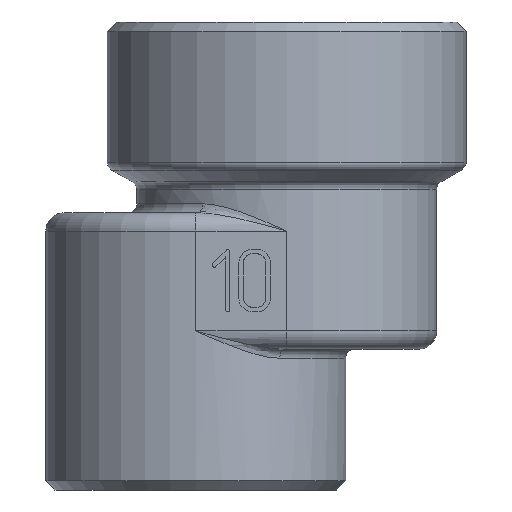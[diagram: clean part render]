
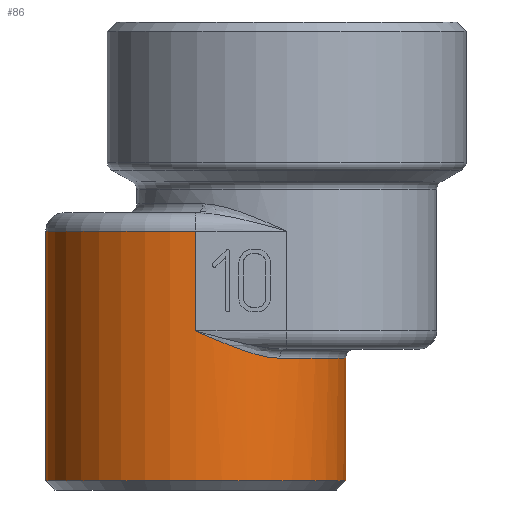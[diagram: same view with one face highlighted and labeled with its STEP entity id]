
A CAD part, left-side view. The second image highlights one B-rep face of the part: STEP entity #86.
In plain terms, the highlighted cylindrical face has radius 16.5 mm (diameter 33 mm), a full revolution.
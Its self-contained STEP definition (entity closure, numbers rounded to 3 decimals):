
#86=ADVANCED_FACE('',(#419,#421),#423,.T.);
#419=FACE_BOUND('',#420,.T.);
#420=EDGE_LOOP('',(#1721,#1722,#1723,#1724,#1725,#1726));
#421=FACE_OUTER_BOUND('',#422,.T.);
#422=EDGE_LOOP('',(#1727));
#423=CYLINDRICAL_SURFACE('',#424,16.5);
#424=AXIS2_PLACEMENT_3D('',#425,#426,#427);
#425=CARTESIAN_POINT('',(0.,0.,0.));
#426=DIRECTION('',(0.,0.,1.));
#427=DIRECTION('',(-1.,0.,0.));
#1721=ORIENTED_EDGE('',*,*,#2126,.F.);
#1722=ORIENTED_EDGE('',*,*,#2127,.F.);
#1723=ORIENTED_EDGE('',*,*,#2128,.F.);
#1724=ORIENTED_EDGE('',*,*,#2129,.F.);
#1725=ORIENTED_EDGE('',*,*,#2015,.T.);
#1726=ORIENTED_EDGE('',*,*,#2130,.F.);
#1727=ORIENTED_EDGE('',*,*,#2131,.T.);
#2015=EDGE_CURVE('',#2271,#2268,#2272,.T.);
#2126=EDGE_CURVE('',#2452,#2453,#2454,.T.);
#2127=EDGE_CURVE('',#2455,#2452,#2456,.T.);
#2128=EDGE_CURVE('',#2457,#2455,#2458,.T.);
#2129=EDGE_CURVE('',#2271,#2457,#2459,.F.);
#2130=EDGE_CURVE('',#2453,#2268,#2460,.T.);
#2131=EDGE_CURVE('',#2461,#2461,#2462,.T.);
#2268=VERTEX_POINT('',#2694);
#2271=VERTEX_POINT('',#2699);
#2272=LINE('',#2700,#2701);
#2452=VERTEX_POINT('',#3116);
#2453=VERTEX_POINT('',#3117);
#2454=LINE('',#3118,#3119);
#2455=VERTEX_POINT('',#3121);
#2456=B_SPLINE_CURVE_WITH_KNOTS('',3,
(#3122,#3123,#3124,#3125,#3126,#3127,#3128,#3129,#3130,#3131,#3132,#3133,#3134,#3135,
#3136,#3137),
.UNSPECIFIED.,.F.,.F.,
(4,1,1,1,1,1,1,1,1,1,1,1,1,4),
(0.,0.065,0.121,0.171,0.228,0.291,
0.366,0.445,0.531,0.625,0.732,
0.832,0.922,1.),
.UNSPECIFIED.);
#2457=VERTEX_POINT('',#3138);
#2458=CIRCLE('',#3139,16.5);
#2459=B_SPLINE_CURVE_WITH_KNOTS('',3,
(#3143,#3144,#3145,#3146,#3147,#3148,#3149,#3150,#3151,#3152,#3153,#3154,#3155,#3156,
#3157,#3158),
.UNSPECIFIED.,.F.,.F.,
(4,1,1,1,1,1,1,1,1,1,1,1,1,4),
(0.,0.065,0.121,0.171,0.228,0.291,
0.366,0.445,0.531,0.625,0.732,
0.832,0.922,1.),
.UNSPECIFIED.);
#2460=CIRCLE('',#3159,16.5);
#2461=VERTEX_POINT('',#3163);
#2462=CIRCLE('',#3164,16.5);
#2694=CARTESIAN_POINT('',(-16.5,0.,28.5));
#2699=CARTESIAN_POINT('',(-16.5,0.,17.5));
#2700=CARTESIAN_POINT('',(-16.5,0.,17.5));
#2701=VECTOR('',#2702,1.);
#2702=DIRECTION('',(0.,0.,1.));
#3116=CARTESIAN_POINT('',(16.5,0.,17.5));
#3117=CARTESIAN_POINT('',(16.5,0.,28.5));
#3118=CARTESIAN_POINT('',(16.5,0.,17.5));
#3119=VECTOR('',#3120,1.);
#3120=DIRECTION('',(0.,0.,1.));
#3121=CARTESIAN_POINT('',(13.671,-9.238,14.5));
#3122=CARTESIAN_POINT('',(13.671,-9.238,14.5));
#3123=CARTESIAN_POINT('',(13.799,-9.049,14.499));
#3124=CARTESIAN_POINT('',(14.029,-8.693,14.518));
#3125=CARTESIAN_POINT('',(14.331,-8.184,14.578));
#3126=CARTESIAN_POINT('',(14.6,-7.693,14.662));
#3127=CARTESIAN_POINT('',(14.861,-7.178,14.772));
#3128=CARTESIAN_POINT('',(15.134,-6.585,14.925));
#3129=CARTESIAN_POINT('',(15.408,-5.92,15.122));
#3130=CARTESIAN_POINT('',(15.673,-5.179,15.369));
#3131=CARTESIAN_POINT('',(15.918,-4.373,15.662));
#3132=CARTESIAN_POINT('',(16.139,-3.478,16.012));
#3133=CARTESIAN_POINT('',(16.313,-2.54,16.399));
#3134=CARTESIAN_POINT('',(16.429,-1.61,16.796));
#3135=CARTESIAN_POINT('',(16.488,-0.77,17.162));
#3136=CARTESIAN_POINT('',(16.5,-0.243,17.393));
#3137=CARTESIAN_POINT('',(16.5,0.,17.5));
#3138=CARTESIAN_POINT('',(-13.671,-9.238,14.5));
#3139=AXIS2_PLACEMENT_3D('',#3140,#3141,#3142);
#3140=CARTESIAN_POINT('',(0.,0.,14.5));
#3141=DIRECTION('',(0.,0.,1.));
#3142=DIRECTION('',(-0.829,-0.56,0.));
#3143=CARTESIAN_POINT('',(-13.671,-9.238,14.5));
#3144=CARTESIAN_POINT('',(-13.799,-9.049,14.499));
#3145=CARTESIAN_POINT('',(-14.029,-8.693,14.518));
#3146=CARTESIAN_POINT('',(-14.331,-8.184,14.578));
#3147=CARTESIAN_POINT('',(-14.6,-7.693,14.662));
#3148=CARTESIAN_POINT('',(-14.861,-7.178,14.772));
#3149=CARTESIAN_POINT('',(-15.134,-6.585,14.925));
#3150=CARTESIAN_POINT('',(-15.408,-5.92,15.122));
#3151=CARTESIAN_POINT('',(-15.673,-5.179,15.369));
#3152=CARTESIAN_POINT('',(-15.918,-4.373,15.662));
#3153=CARTESIAN_POINT('',(-16.139,-3.478,16.012));
#3154=CARTESIAN_POINT('',(-16.313,-2.54,16.399));
#3155=CARTESIAN_POINT('',(-16.429,-1.61,16.796));
#3156=CARTESIAN_POINT('',(-16.488,-0.77,17.162));
#3157=CARTESIAN_POINT('',(-16.5,-0.243,17.393));
#3158=CARTESIAN_POINT('',(-16.5,0.,17.5));
#3159=AXIS2_PLACEMENT_3D('',#3160,#3161,#3162);
#3160=CARTESIAN_POINT('',(0.,0.,28.5));
#3161=DIRECTION('',(0.,0.,1.));
#3162=DIRECTION('',(1.,0.,0.));
#3163=CARTESIAN_POINT('',(-16.5,0.,1.));
#3164=AXIS2_PLACEMENT_3D('',#3165,#3166,#3167);
#3165=CARTESIAN_POINT('',(0.,0.,1.));
#3166=DIRECTION('',(0.,0.,1.));
#3167=DIRECTION('',(-1.,0.,0.));
